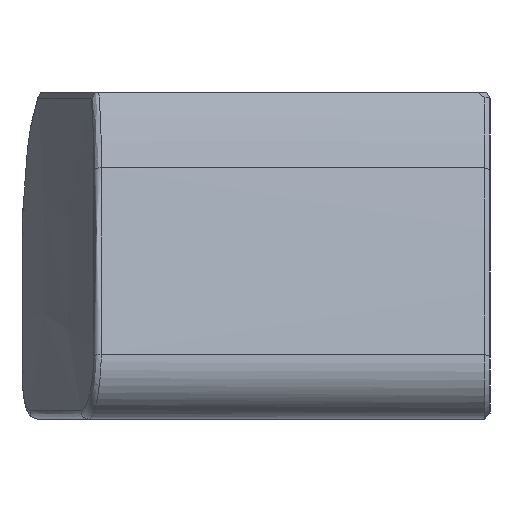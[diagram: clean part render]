
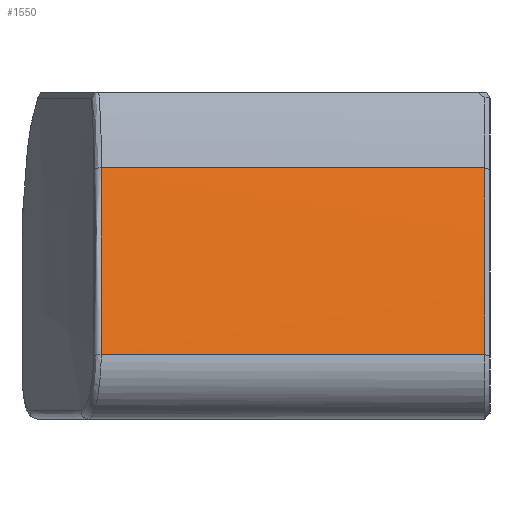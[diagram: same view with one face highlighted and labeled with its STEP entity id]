
A CAD part, left-side view. The second image highlights one B-rep face of the part: STEP entity #1550.
In plain terms, the highlighted cylindrical face has radius 148 mm (diameter 296 mm), a partial arc.
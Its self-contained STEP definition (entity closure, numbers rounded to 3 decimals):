
#91 = EDGE_LOOP ( 'NONE', ( #1305, #3001, #3000, #461 ) ) ;
#144 = VECTOR ( 'NONE', #3374, 1000. ) ;
#461 = ORIENTED_EDGE ( 'NONE', *, *, #885, .T. ) ;
#753 = VECTOR ( 'NONE', #3377, 1000. ) ;
#885 = EDGE_CURVE ( 'NONE', #4549, #4543, #1365, .T. ) ;
#886 = EDGE_CURVE ( 'NONE', #4547, #4549, #3372, .T. ) ;
#887 = EDGE_CURVE ( 'NONE', #4543, #4545, #3375, .T. ) ;
#888 = EDGE_CURVE ( 'NONE', #4545, #4547, #5149, .T. ) ;
#1305 = ORIENTED_EDGE ( 'NONE', *, *, #887, .T. ) ;
#1365 = CIRCLE ( 'NONE', #1867, 148. ) ;
#1550 = ADVANCED_FACE ( 'NONE', ( #4337 ), #4343, .T. ) ;
#1770 = CARTESIAN_POINT ( 'NONE',  ( 0., -5., 0. ) ) ;
#1771 = DIRECTION ( 'NONE',  ( 0., 1., 0. ) ) ;
#1772 = DIRECTION ( 'NONE',  ( 0., 0., 1. ) ) ;
#1867 = AXIS2_PLACEMENT_3D ( 'NONE', #3356, #3369, #3370 ) ;
#3000 = ORIENTED_EDGE ( 'NONE', *, *, #886, .T. ) ;
#3001 = ORIENTED_EDGE ( 'NONE', *, *, #888, .T. ) ;
#3356 = CARTESIAN_POINT ( 'NONE',  ( 0., -4.6, 0. ) ) ;
#3369 = DIRECTION ( 'NONE',  ( 0., 1., 0. ) ) ;
#3370 = DIRECTION ( 'NONE',  ( 0., 0., 1. ) ) ;
#3371 = CARTESIAN_POINT ( 'NONE',  ( -139.558, 24.781, 49.271 ) ) ;
#3372 = LINE ( 'NONE', #3373, #144 ) ;
#3373 = CARTESIAN_POINT ( 'NONE',  ( -143.815, -5., 34.944 ) ) ;
#3374 = DIRECTION ( 'NONE',  ( 0., -1., 0. ) ) ;
#3375 = LINE ( 'NONE', #3376, #753 ) ;
#3376 = CARTESIAN_POINT ( 'NONE',  ( -139.558, -5., 49.271 ) ) ;
#3377 = DIRECTION ( 'NONE',  ( 0., 1., 0. ) ) ;
#3378 = CARTESIAN_POINT ( 'NONE',  ( -141.218, 24.785, 44.568 ) ) ;
#3379 = CARTESIAN_POINT ( 'NONE',  ( -142.638, 24.794, 39.792 ) ) ;
#3380 = CARTESIAN_POINT ( 'NONE',  ( -143.815, 24.811, 34.944 ) ) ;
#4337 = FACE_OUTER_BOUND ( 'NONE', #91, .T. ) ;
#4342 = AXIS2_PLACEMENT_3D ( 'NONE', #1770, #1771, #1772 ) ;
#4343 = CYLINDRICAL_SURFACE ( 'NONE', #4342, 148. ) ;
#4488 = CARTESIAN_POINT ( 'NONE',  ( -139.558, -4.6, 49.271 ) ) ;
#4489 = CARTESIAN_POINT ( 'NONE',  ( -139.558, 24.781, 49.271 ) ) ;
#4490 = CARTESIAN_POINT ( 'NONE',  ( -143.815, 24.811, 34.944 ) ) ;
#4491 = CARTESIAN_POINT ( 'NONE',  ( -143.815, -4.6, 34.944 ) ) ;
#4543 = VERTEX_POINT ( 'NONE', #4488 ) ;
#4545 = VERTEX_POINT ( 'NONE', #4489 ) ;
#4547 = VERTEX_POINT ( 'NONE', #4490 ) ;
#4549 = VERTEX_POINT ( 'NONE', #4491 ) ;
#5149 = B_SPLINE_CURVE_WITH_KNOTS ( 'NONE', 3,
 ( #3371, #3378, #3379, #3380 ),
 .UNSPECIFIED., .F., .F.,
 ( 4, 4 ),
 ( 0., 0.015 ),
 .UNSPECIFIED. ) ;
